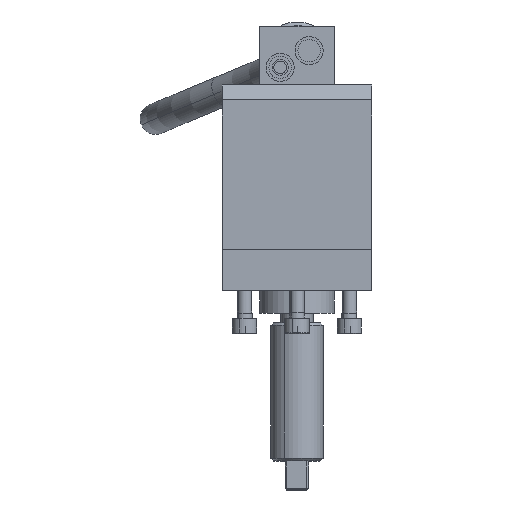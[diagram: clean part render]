
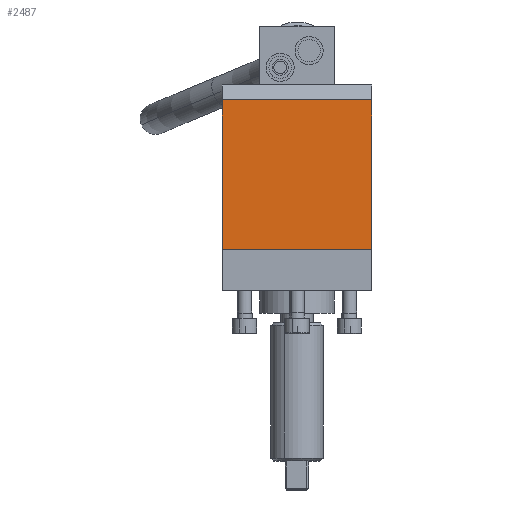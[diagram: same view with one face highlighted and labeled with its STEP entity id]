
A CAD part, top view. The second image highlights one B-rep face of the part: STEP entity #2487.
In plain terms, the highlighted planar face has unit normal (0, 0, 1).
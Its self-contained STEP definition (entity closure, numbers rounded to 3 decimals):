
#2426=CARTESIAN_POINT('Vertex',(40.,32.,439.2)) ;
#2442=CARTESIAN_POINT('Vertex',(-40.,32.,439.2)) ;
#2445=CARTESIAN_POINT('Line Origine',(0.,32.,439.2)) ;
#2457=CARTESIAN_POINT('Axis2P3D Location',(0.,-48.,439.2)) ;
#2462=CARTESIAN_POINT('Line Origine',(40.,-8.,439.2)) ;
#2466=CARTESIAN_POINT('Vertex',(40.,-48.,439.2)) ;
#2469=CARTESIAN_POINT('Line Origine',(-40.,-8.,439.2)) ;
#2473=CARTESIAN_POINT('Vertex',(-40.,-48.,439.2)) ;
#2476=CARTESIAN_POINT('Line Origine',(0.,-48.,439.2)) ;
#2446=DIRECTION('Vector Direction',(1.,0.,0.)) ;
#2458=DIRECTION('Axis2P3D Direction',(0.,0.,-1.)) ;
#2459=DIRECTION('Axis2P3D XDirection',(0.,1.,0.)) ;
#2463=DIRECTION('Vector Direction',(0.,1.,0.)) ;
#2470=DIRECTION('Vector Direction',(0.,1.,0.)) ;
#2477=DIRECTION('Vector Direction',(1.,0.,0.)) ;
#2460=AXIS2_PLACEMENT_3D('Plane Axis2P3D',#2457,#2458,#2459) ;
#2482=ORIENTED_EDGE('',*,*,#2468,.T.) ;
#2483=ORIENTED_EDGE('',*,*,#2449,.F.) ;
#2484=ORIENTED_EDGE('',*,*,#2475,.F.) ;
#2485=ORIENTED_EDGE('',*,*,#2480,.T.) ;
#2447=VECTOR('Line Direction',#2446,1.) ;
#2464=VECTOR('Line Direction',#2463,1.) ;
#2471=VECTOR('Line Direction',#2470,1.) ;
#2478=VECTOR('Line Direction',#2477,1.) ;
#2487=ADVANCED_FACE('',(#2486),#2461,.F.) ;
#2449=EDGE_CURVE('',#2443,#2427,#2448,.T.) ;
#2468=EDGE_CURVE('',#2467,#2427,#2465,.T.) ;
#2475=EDGE_CURVE('',#2474,#2443,#2472,.T.) ;
#2480=EDGE_CURVE('',#2474,#2467,#2479,.T.) ;
#2481=EDGE_LOOP('',(#2482,#2483,#2484,#2485)) ;
#2486=FACE_OUTER_BOUND('',#2481,.T.) ;
#2448=LINE('Line',#2445,#2447) ;
#2465=LINE('Line',#2462,#2464) ;
#2472=LINE('Line',#2469,#2471) ;
#2479=LINE('Line',#2476,#2478) ;
#2461=PLANE('Plane',#2460) ;
#2427=VERTEX_POINT('',#2426) ;
#2443=VERTEX_POINT('',#2442) ;
#2467=VERTEX_POINT('',#2466) ;
#2474=VERTEX_POINT('',#2473) ;
